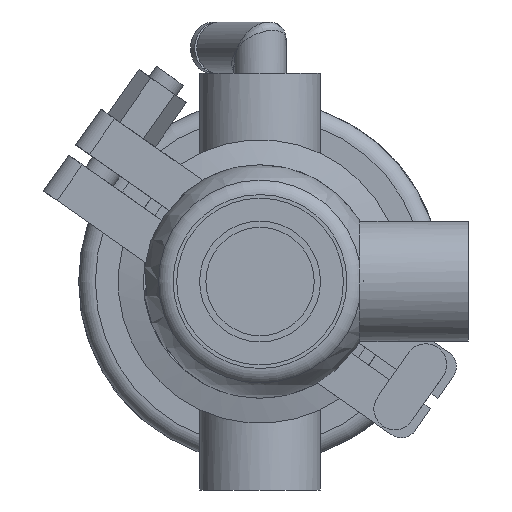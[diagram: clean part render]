
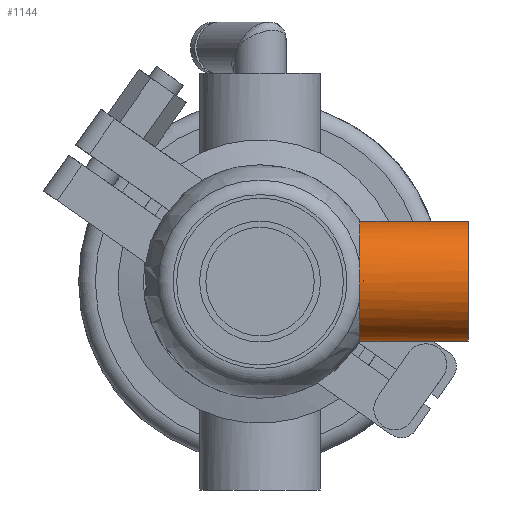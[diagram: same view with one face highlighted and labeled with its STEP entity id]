
A CAD part, front view. The second image highlights one B-rep face of the part: STEP entity #1144.
In plain terms, the highlighted cylindrical face has radius 14.5 mm (diameter 29 mm), a full revolution.
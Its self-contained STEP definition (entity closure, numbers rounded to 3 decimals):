
#342 = FACE_OUTER_BOUND ( 'NONE', #10232, .T. ) ;
#390 = EDGE_CURVE ( 'NONE', #15002, #14445, #4154, .T. ) ;
#1144 = ADVANCED_FACE ( 'NONE', ( #342, #13033 ), #19399, .T. ) ;
#1157 = CARTESIAN_POINT ( 'NONE',  ( 23.953, 0., 0. ) ) ;
#2277 = CARTESIAN_POINT ( 'NONE',  ( 23.953, 14.422, 1.5 ) ) ;
#2732 = CARTESIAN_POINT ( 'NONE',  ( 23.953, 0., 0. ) ) ;
#3904 = VERTEX_POINT ( 'NONE', #20238 ) ;
#3907 = VERTEX_POINT ( 'NONE', #20035 ) ;
#4154 = CIRCLE ( 'NONE', #5825, 14.5 ) ;
#4305 = ORIENTED_EDGE ( 'NONE', *, *, #11751, .T. ) ;
#4318 = B_SPLINE_CURVE_WITH_KNOTS ( 'NONE', 3,
 ( #12845, #16400, #17854, #11275 ),
 .UNSPECIFIED., .F., .F.,
 ( 4, 4 ),
 ( 0.016, 0.019 ),
 .UNSPECIFIED. ) ;
#4343 = CARTESIAN_POINT ( 'NONE',  ( 23.896, -14.446, 1.445 ) ) ;
#4368 = DIRECTION ( 'NONE',  ( 0., 0., 1. ) ) ;
#5025 = CARTESIAN_POINT ( 'NONE',  ( 23.896, -14.446, -1.446 ) ) ;
#5236 = CARTESIAN_POINT ( 'NONE',  ( 0., 0., 0. ) ) ;
#5374 = ORIENTED_EDGE ( 'NONE', *, *, #17133, .T. ) ;
#5527 = EDGE_CURVE ( 'NONE', #17906, #3904, #11451, .T. ) ;
#5825 = AXIS2_PLACEMENT_3D ( 'NONE', #1157, #8859, #17078 ) ;
#7501 = CARTESIAN_POINT ( 'NONE',  ( 23.953, -14.073, -3.569 ) ) ;
#8735 = ORIENTED_EDGE ( 'NONE', *, *, #5527, .T. ) ;
#8818 = AXIS2_PLACEMENT_3D ( 'NONE', #18747, #9176, #9466 ) ;
#8825 = AXIS2_PLACEMENT_3D ( 'NONE', #2732, #13945, #4368 ) ;
#8859 = DIRECTION ( 'NONE',  ( 1., 0., 0. ) ) ;
#9048 = CARTESIAN_POINT ( 'NONE',  ( 23.882, -14.5, 0.726 ) ) ;
#9176 = DIRECTION ( 'NONE',  ( -1., 0., 0. ) ) ;
#9402 = CARTESIAN_POINT ( 'NONE',  ( 23.953, -13.859, -4.264 ) ) ;
#9412 = EDGE_LOOP ( 'NONE', ( #11898 ) ) ;
#9466 = DIRECTION ( 'NONE',  ( 0., 0., 1. ) ) ;
#9915 = DIRECTION ( 'NONE',  ( -1., 0., 0. ) ) ;
#10161 = AXIS2_PLACEMENT_3D ( 'NONE', #5236, #9915, #17952 ) ;
#10232 = EDGE_LOOP ( 'NONE', ( #10633, #5374, #8735, #4305 ) ) ;
#10633 = ORIENTED_EDGE ( 'NONE', *, *, #390, .T. ) ;
#11275 = CARTESIAN_POINT ( 'NONE',  ( 23.953, 14.422, 1.5 ) ) ;
#11451 = CIRCLE ( 'NONE', #8825, 14.5 ) ;
#11751 = EDGE_CURVE ( 'NONE', #3904, #15002, #4318, .T. ) ;
#11898 = ORIENTED_EDGE ( 'NONE', *, *, #16703, .T. ) ;
#12845 = CARTESIAN_POINT ( 'NONE',  ( 23.953, 14.422, -1.5 ) ) ;
#13033 = FACE_OUTER_BOUND ( 'NONE', #9412, .T. ) ;
#13821 = CARTESIAN_POINT ( 'NONE',  ( 23.932, -14.232, 2.867 ) ) ;
#13945 = DIRECTION ( 'NONE',  ( 1., 0., 0. ) ) ;
#14445 = VERTEX_POINT ( 'NONE', #14468 ) ;
#14468 = CARTESIAN_POINT ( 'NONE',  ( 23.953, -13.859, 4.264 ) ) ;
#14491 = CARTESIAN_POINT ( 'NONE',  ( 23.882, -14.5, -0.727 ) ) ;
#14583 = B_SPLINE_CURVE_WITH_KNOTS ( 'NONE', 3,
 ( #18631, #15499, #13821, #4343, #9048, #14491, #5025, #15498, #7501, #18718 ),
 .UNSPECIFIED., .F., .F.,
 ( 4, 2, 2, 2, 4 ),
 ( 0., 0.002, 0.004, 0.006, 0.009 ),
 .UNSPECIFIED. ) ;
#15002 = VERTEX_POINT ( 'NONE', #2277 ) ;
#15498 = CARTESIAN_POINT ( 'NONE',  ( 23.932, -14.232, -2.867 ) ) ;
#15499 = CARTESIAN_POINT ( 'NONE',  ( 23.953, -14.073, 3.569 ) ) ;
#16400 = CARTESIAN_POINT ( 'NONE',  ( 24.016, 14.527, -0.494 ) ) ;
#16479 = CIRCLE ( 'NONE', #8818, 14.5 ) ;
#16703 = EDGE_CURVE ( 'NONE', #3907, #3907, #16479, .T. ) ;
#17078 = DIRECTION ( 'NONE',  ( 0., 0., 1. ) ) ;
#17133 = EDGE_CURVE ( 'NONE', #14445, #17906, #14583, .T. ) ;
#17854 = CARTESIAN_POINT ( 'NONE',  ( 24.015, 14.525, 0.507 ) ) ;
#17906 = VERTEX_POINT ( 'NONE', #9402 ) ;
#17952 = DIRECTION ( 'NONE',  ( 0., 0., 1. ) ) ;
#18631 = CARTESIAN_POINT ( 'NONE',  ( 23.953, -13.859, 4.264 ) ) ;
#18718 = CARTESIAN_POINT ( 'NONE',  ( 23.953, -13.859, -4.264 ) ) ;
#18747 = CARTESIAN_POINT ( 'NONE',  ( 50., 0., 0. ) ) ;
#19399 = CYLINDRICAL_SURFACE ( 'NONE', #10161, 14.5 ) ;
#20035 = CARTESIAN_POINT ( 'NONE',  ( 50., 0., 14.5 ) ) ;
#20238 = CARTESIAN_POINT ( 'NONE',  ( 23.953, 14.422, -1.5 ) ) ;
